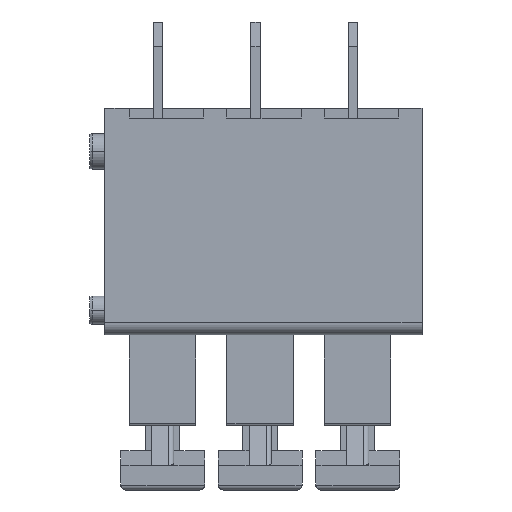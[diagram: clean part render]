
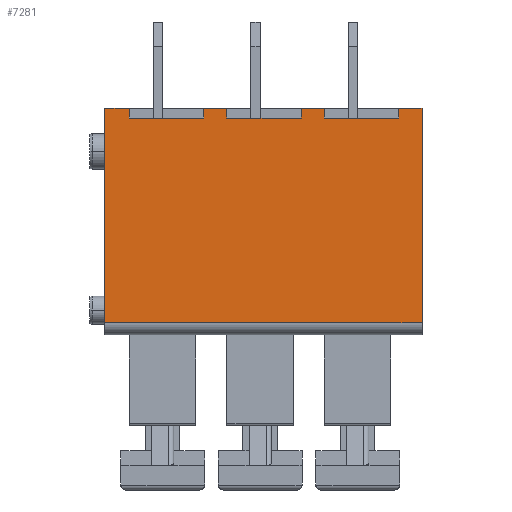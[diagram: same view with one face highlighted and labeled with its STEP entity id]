
A CAD part, left-side view. The second image highlights one B-rep face of the part: STEP entity #7281.
In plain terms, the highlighted planar face has unit normal (-1, 0, 0).
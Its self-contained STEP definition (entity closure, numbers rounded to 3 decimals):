
#406=DIRECTION('',(0.,-1.,0.));
#407=VECTOR('',#406,12.88);
#408=CARTESIAN_POINT('',(0.,1.8,-8.7));
#409=LINE('',#408,#407);
#414=DIRECTION('',(0.,-1.,0.));
#415=VECTOR('',#414,3.01);
#416=CARTESIAN_POINT('',(0.,-7.12,-0.4));
#417=LINE('',#416,#415);
#418=DIRECTION('',(0.,0.,1.));
#419=VECTOR('',#418,8.7);
#420=CARTESIAN_POINT('',(0.,1.8,-8.7));
#421=LINE('',#420,#419);
#422=DIRECTION('',(0.,-1.,0.));
#423=VECTOR('',#422,1.);
#424=CARTESIAN_POINT('',(0.,1.8,0.));
#425=LINE('',#424,#423);
#426=DIRECTION('',(0.,-1.,0.));
#427=VECTOR('',#426,3.01);
#428=CARTESIAN_POINT('',(0.,0.8,-0.4));
#429=LINE('',#428,#427);
#430=DIRECTION('',(0.,-1.,0.));
#431=VECTOR('',#430,3.01);
#432=CARTESIAN_POINT('',(0.,-3.16,-0.4));
#433=LINE('',#432,#431);
#438=DIRECTION('',(0.,0.,1.));
#439=VECTOR('',#438,0.4);
#440=CARTESIAN_POINT('',(0.,-7.12,-0.4));
#441=LINE('',#440,#439);
#682=DIRECTION('',(0.,0.,1.));
#683=VECTOR('',#682,8.7);
#684=CARTESIAN_POINT('',(0.,-11.08,-8.7));
#685=LINE('',#684,#683);
#772=DIRECTION('',(0.,1.,0.));
#773=VECTOR('',#772,0.95);
#774=CARTESIAN_POINT('',(0.,-11.08,0.));
#775=LINE('',#774,#773);
#784=DIRECTION('',(0.,0.,-1.));
#785=VECTOR('',#784,0.4);
#786=CARTESIAN_POINT('',(0.,-10.13,0.));
#787=LINE('',#786,#785);
#3116=DIRECTION('',(0.,0.,1.));
#3117=VECTOR('',#3116,0.4);
#3118=CARTESIAN_POINT('',(0.,0.8,-0.4));
#3119=LINE('',#3118,#3117);
#3376=DIRECTION('',(0.,1.,0.));
#3377=VECTOR('',#3376,0.95);
#3378=CARTESIAN_POINT('',(0.,-7.12,0.));
#3379=LINE('',#3378,#3377);
#3388=DIRECTION('',(0.,0.,-1.));
#3389=VECTOR('',#3388,0.4);
#3390=CARTESIAN_POINT('',(0.,-6.17,0.));
#3391=LINE('',#3390,#3389);
#3396=DIRECTION('',(0.,0.,1.));
#3397=VECTOR('',#3396,0.4);
#3398=CARTESIAN_POINT('',(0.,-3.16,-0.4));
#3399=LINE('',#3398,#3397);
#3408=DIRECTION('',(0.,1.,0.));
#3409=VECTOR('',#3408,0.95);
#3410=CARTESIAN_POINT('',(0.,-3.16,0.));
#3411=LINE('',#3410,#3409);
#3420=DIRECTION('',(0.,0.,-1.));
#3421=VECTOR('',#3420,0.4);
#3422=CARTESIAN_POINT('',(0.,-2.21,0.));
#3423=LINE('',#3422,#3421);
#5084=CARTESIAN_POINT('',(0.,0.8,-0.4));
#5086=VERTEX_POINT('',#5084);
#5087=CARTESIAN_POINT('',(0.,0.8,0.));
#5088=VERTEX_POINT('',#5087);
#5115=CARTESIAN_POINT('',(0.,-10.13,-0.4));
#5116=VERTEX_POINT('',#5115);
#5117=CARTESIAN_POINT('',(0.,-7.12,-0.4));
#5118=VERTEX_POINT('',#5117);
#5123=CARTESIAN_POINT('',(0.,-6.17,-0.4));
#5124=VERTEX_POINT('',#5123);
#5125=CARTESIAN_POINT('',(0.,-3.16,-0.4));
#5126=VERTEX_POINT('',#5125);
#5131=CARTESIAN_POINT('',(0.,-2.21,-0.4));
#5132=VERTEX_POINT('',#5131);
#5319=CARTESIAN_POINT('',(0.,1.8,-8.7));
#5320=CARTESIAN_POINT('',(0.,-11.08,-8.7));
#5321=VERTEX_POINT('',#5319);
#5322=VERTEX_POINT('',#5320);
#5323=CARTESIAN_POINT('',(0.,-7.12,0.));
#5324=VERTEX_POINT('',#5323);
#5325=CARTESIAN_POINT('',(0.,-10.13,0.));
#5326=VERTEX_POINT('',#5325);
#5327=CARTESIAN_POINT('',(0.,-11.08,0.));
#5328=VERTEX_POINT('',#5327);
#5329=CARTESIAN_POINT('',(0.,1.8,0.));
#5330=VERTEX_POINT('',#5329);
#5331=CARTESIAN_POINT('',(0.,-2.21,0.));
#5332=VERTEX_POINT('',#5331);
#5333=CARTESIAN_POINT('',(0.,-3.16,0.));
#5334=VERTEX_POINT('',#5333);
#5335=CARTESIAN_POINT('',(0.,-6.17,0.));
#5336=VERTEX_POINT('',#5335);
#7243=CARTESIAN_POINT('',(0.,0.8,-9.2));
#7244=DIRECTION('',(-1.,0.,0.));
#7245=DIRECTION('',(0.,0.,1.));
#7246=AXIS2_PLACEMENT_3D('',#7243,#7244,#7245);
#7247=PLANE('',#7246);
#7249=ORIENTED_EDGE('',*,*,#7248,.F.);
#7251=ORIENTED_EDGE('',*,*,#7250,.T.);
#7253=ORIENTED_EDGE('',*,*,#7252,.F.);
#7255=ORIENTED_EDGE('',*,*,#7254,.F.);
#7257=ORIENTED_EDGE('',*,*,#7256,.F.);
#7258=ORIENTED_EDGE('',*,*,#7233,.F.);
#7260=ORIENTED_EDGE('',*,*,#7259,.T.);
#7262=ORIENTED_EDGE('',*,*,#7261,.T.);
#7264=ORIENTED_EDGE('',*,*,#7263,.F.);
#7266=ORIENTED_EDGE('',*,*,#7265,.T.);
#7268=ORIENTED_EDGE('',*,*,#7267,.F.);
#7270=ORIENTED_EDGE('',*,*,#7269,.F.);
#7272=ORIENTED_EDGE('',*,*,#7271,.F.);
#7274=ORIENTED_EDGE('',*,*,#7273,.T.);
#7276=ORIENTED_EDGE('',*,*,#7275,.F.);
#7278=ORIENTED_EDGE('',*,*,#7277,.F.);
#7279=EDGE_LOOP('',(#7249,#7251,#7253,#7255,#7257,#7258,#7260,#7262,#7264,#7266,
#7268,#7270,#7272,#7274,#7276,#7278));
#7280=FACE_OUTER_BOUND('',#7279,.F.);
#7281=ADVANCED_FACE('',(#7280),#7247,.T.);
#7233=EDGE_CURVE('',#5321,#5322,#409,.T.);
#7248=EDGE_CURVE('',#5118,#5324,#441,.T.);
#7250=EDGE_CURVE('',#5118,#5116,#417,.T.);
#7252=EDGE_CURVE('',#5326,#5116,#787,.T.);
#7254=EDGE_CURVE('',#5328,#5326,#775,.T.);
#7256=EDGE_CURVE('',#5322,#5328,#685,.T.);
#7259=EDGE_CURVE('',#5321,#5330,#421,.T.);
#7261=EDGE_CURVE('',#5330,#5088,#425,.T.);
#7263=EDGE_CURVE('',#5086,#5088,#3119,.T.);
#7265=EDGE_CURVE('',#5086,#5132,#429,.T.);
#7267=EDGE_CURVE('',#5332,#5132,#3423,.T.);
#7269=EDGE_CURVE('',#5334,#5332,#3411,.T.);
#7271=EDGE_CURVE('',#5126,#5334,#3399,.T.);
#7273=EDGE_CURVE('',#5126,#5124,#433,.T.);
#7275=EDGE_CURVE('',#5336,#5124,#3391,.T.);
#7277=EDGE_CURVE('',#5324,#5336,#3379,.T.);
